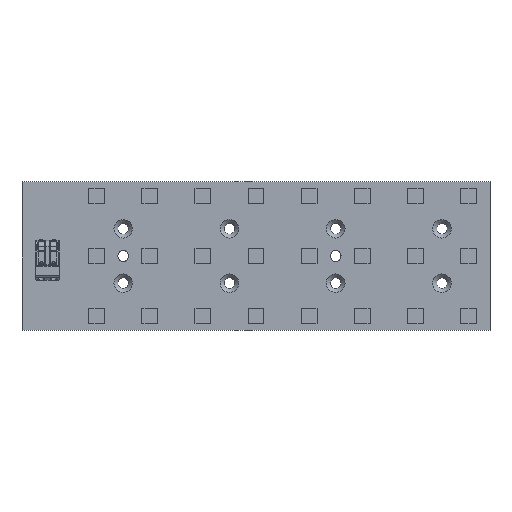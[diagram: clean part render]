
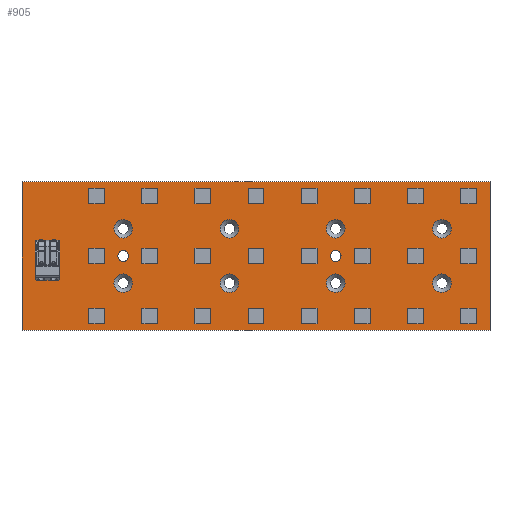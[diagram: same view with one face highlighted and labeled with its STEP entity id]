
A CAD part, top view. The second image highlights one B-rep face of the part: STEP entity #905.
In plain terms, the highlighted planar face has unit normal (0, 0, 1).
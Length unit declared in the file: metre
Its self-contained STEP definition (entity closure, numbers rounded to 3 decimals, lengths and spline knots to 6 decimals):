
#905=ADVANCED_FACE('',(#1899,#1900,#1901,#1902,#1903,#1904,#1905,#1906,#1907,#1908,#1909),#1910,.T.);
#1899=FACE_BOUND('',#3176,.T.);
#1900=FACE_BOUND('',#3177,.T.);
#1901=FACE_BOUND('',#3178,.T.);
#1902=FACE_BOUND('',#3179,.T.);
#1903=FACE_BOUND('',#3180,.T.);
#1904=FACE_BOUND('',#3181,.T.);
#1905=FACE_BOUND('',#3182,.T.);
#1906=FACE_BOUND('',#3183,.T.);
#1907=FACE_OUTER_BOUND('',#3184,.T.);
#1908=FACE_BOUND('',#3185,.T.);
#1909=FACE_BOUND('',#3186,.T.);
#1910=PLANE('',#3187);
#3176=EDGE_LOOP('',(#5153));
#3177=EDGE_LOOP('',(#5154));
#3178=EDGE_LOOP('',(#5155));
#3179=EDGE_LOOP('',(#5156));
#3180=EDGE_LOOP('',(#5157));
#3181=EDGE_LOOP('',(#5158));
#3182=EDGE_LOOP('',(#5159));
#3183=EDGE_LOOP('',(#5160));
#3184=EDGE_LOOP('',(#5161,#5162,#5163,#5164));
#3185=EDGE_LOOP('',(#5165));
#3186=EDGE_LOOP('',(#5166));
#3187=AXIS2_PLACEMENT_3D('',#5167,#5168,#5169);
#5153=ORIENTED_EDGE('',*,*,#8152,.T.);
#5154=ORIENTED_EDGE('',*,*,#8155,.T.);
#5155=ORIENTED_EDGE('',*,*,#8179,.T.);
#5156=ORIENTED_EDGE('',*,*,#8180,.T.);
#5157=ORIENTED_EDGE('',*,*,#8181,.T.);
#5158=ORIENTED_EDGE('',*,*,#8182,.T.);
#5159=ORIENTED_EDGE('',*,*,#8183,.T.);
#5160=ORIENTED_EDGE('',*,*,#8184,.T.);
#5161=ORIENTED_EDGE('',*,*,#8185,.F.);
#5162=ORIENTED_EDGE('',*,*,#8157,.F.);
#5163=ORIENTED_EDGE('',*,*,#8164,.F.);
#5164=ORIENTED_EDGE('',*,*,#8186,.F.);
#5165=ORIENTED_EDGE('',*,*,#8187,.T.);
#5166=ORIENTED_EDGE('',*,*,#8188,.T.);
#5167=CARTESIAN_POINT('',(0.0,0.0,0.0));
#5168=DIRECTION('',(0.0,0.0,1.0));
#5169=DIRECTION('',(1.0,0.0,-0.0));
#8152=EDGE_CURVE('',#9579,#9579,#9580,.F.);
#8155=EDGE_CURVE('',#9584,#9584,#9585,.F.);
#8157=EDGE_CURVE('',#9587,#9588,#9589,.T.);
#8164=EDGE_CURVE('',#9598,#9587,#9600,.T.);
#8179=EDGE_CURVE('',#9626,#9626,#9627,.F.);
#8180=EDGE_CURVE('',#9628,#9628,#9629,.F.);
#8181=EDGE_CURVE('',#9630,#9630,#9631,.F.);
#8182=EDGE_CURVE('',#9632,#9632,#9633,.F.);
#8183=EDGE_CURVE('',#9634,#9634,#9635,.F.);
#8184=EDGE_CURVE('',#9636,#9636,#9637,.F.);
#8185=EDGE_CURVE('',#9588,#9638,#9639,.T.);
#8186=EDGE_CURVE('',#9638,#9598,#9640,.T.);
#8187=EDGE_CURVE('',#9641,#9641,#9642,.T.);
#8188=EDGE_CURVE('',#9643,#9643,#9644,.T.);
#9579=VERTEX_POINT('',#11691);
#9580=CIRCLE('',#11692,0.00295);
#9584=VERTEX_POINT('',#11696);
#9585=CIRCLE('',#11697,0.00295);
#9587=VERTEX_POINT('',#11699);
#9588=VERTEX_POINT('',#11700);
#9589=LINE('',#11701,#11702);
#9598=VERTEX_POINT('',#11715);
#9600=LINE('',#11718,#11719);
#9626=VERTEX_POINT('',#11747);
#9627=CIRCLE('',#11748,0.00295);
#9628=VERTEX_POINT('',#11749);
#9629=CIRCLE('',#11750,0.00295);
#9630=VERTEX_POINT('',#11751);
#9631=CIRCLE('',#11752,0.00295);
#9632=VERTEX_POINT('',#11753);
#9633=CIRCLE('',#11754,0.00295);
#9634=VERTEX_POINT('',#11755);
#9635=CIRCLE('',#11756,0.00295);
#9636=VERTEX_POINT('',#11757);
#9637=CIRCLE('',#11758,0.00295);
#9638=VERTEX_POINT('',#11759);
#9639=LINE('',#11760,#11761);
#9640=LINE('',#11762,#11763);
#9641=VERTEX_POINT('',#11764);
#9642=CIRCLE('',#11765,0.0017);
#9643=VERTEX_POINT('',#11766);
#9644=CIRCLE('',#11767,0.0017);
#11691=CARTESIAN_POINT('',(0.06175,-0.0086,0.0));
#11692=AXIS2_PLACEMENT_3D('',#14767,#14768,#14769);
#11696=CARTESIAN_POINT('',(0.06175,0.0086,0.0));
#11697=AXIS2_PLACEMENT_3D('',#14773,#14774,#14775);
#11699=CARTESIAN_POINT('',(0.074,-0.0235,0.0));
#11700=CARTESIAN_POINT('',(-0.074,-0.0235,0.0));
#11701=CARTESIAN_POINT('',(0.0,-0.0235,0.0));
#11702=VECTOR('',#14776,1.0);
#11715=CARTESIAN_POINT('',(0.074,0.0235,0.0));
#11718=CARTESIAN_POINT('',(0.074,0.0,0.0));
#11719=VECTOR('',#14782,1.0);
#11747=CARTESIAN_POINT('',(0.02815,0.0086,0.0));
#11748=AXIS2_PLACEMENT_3D('',#14815,#14816,#14817);
#11749=CARTESIAN_POINT('',(0.02815,-0.0086,0.0));
#11750=AXIS2_PLACEMENT_3D('',#14818,#14819,#14820);
#11751=CARTESIAN_POINT('',(-0.00545,0.0086,0.0));
#11752=AXIS2_PLACEMENT_3D('',#14821,#14822,#14823);
#11753=CARTESIAN_POINT('',(-0.00545,-0.0086,0.0));
#11754=AXIS2_PLACEMENT_3D('',#14824,#14825,#14826);
#11755=CARTESIAN_POINT('',(-0.03905,-0.0086,0.0));
#11756=AXIS2_PLACEMENT_3D('',#14827,#14828,#14829);
#11757=CARTESIAN_POINT('',(-0.03905,0.0086,0.0));
#11758=AXIS2_PLACEMENT_3D('',#14830,#14831,#14832);
#11759=CARTESIAN_POINT('',(-0.074,0.0235,0.0));
#11760=CARTESIAN_POINT('',(-0.074,0.0,0.0));
#11761=VECTOR('',#14833,1.0);
#11762=CARTESIAN_POINT('',(0.0,0.0235,0.0));
#11763=VECTOR('',#14834,1.0);
#11764=CARTESIAN_POINT('',(0.0235,0.0,0.0));
#11765=AXIS2_PLACEMENT_3D('',#14835,#14836,#14837);
#11766=CARTESIAN_POINT('',(-0.0437,0.0,0.0));
#11767=AXIS2_PLACEMENT_3D('',#14838,#14839,#14840);
#14767=CARTESIAN_POINT('',(0.0588,-0.0086,0.0));
#14768=DIRECTION('',(0.0,0.0,1.0));
#14769=DIRECTION('',(1.0,0.0,-0.0));
#14773=CARTESIAN_POINT('',(0.0588,0.0086,0.0));
#14774=DIRECTION('',(0.0,0.0,1.0));
#14775=DIRECTION('',(1.0,0.0,-0.0));
#14776=DIRECTION('',(-1.0,-0.0,-0.0));
#14782=DIRECTION('',(0.0,-1.0,0.0));
#14815=CARTESIAN_POINT('',(0.0252,0.0086,0.0));
#14816=DIRECTION('',(0.0,0.0,1.0));
#14817=DIRECTION('',(1.0,0.0,-0.0));
#14818=CARTESIAN_POINT('',(0.0252,-0.0086,0.0));
#14819=DIRECTION('',(0.0,0.0,1.0));
#14820=DIRECTION('',(1.0,0.0,-0.0));
#14821=CARTESIAN_POINT('',(-0.0084,0.0086,0.0));
#14822=DIRECTION('',(0.0,0.0,1.0));
#14823=DIRECTION('',(1.0,0.0,-0.0));
#14824=CARTESIAN_POINT('',(-0.0084,-0.0086,0.0));
#14825=DIRECTION('',(0.0,0.0,1.0));
#14826=DIRECTION('',(1.0,0.0,-0.0));
#14827=CARTESIAN_POINT('',(-0.042,-0.0086,0.0));
#14828=DIRECTION('',(0.0,0.0,1.0));
#14829=DIRECTION('',(1.0,0.0,-0.0));
#14830=CARTESIAN_POINT('',(-0.042,0.0086,0.0));
#14831=DIRECTION('',(0.0,0.0,1.0));
#14832=DIRECTION('',(1.0,0.0,-0.0));
#14833=DIRECTION('',(-0.0,1.0,-0.0));
#14834=DIRECTION('',(1.0,0.0,0.0));
#14835=CARTESIAN_POINT('',(0.0252,0.0,0.0));
#14836=DIRECTION('',(-0.0,0.0,-1.0));
#14837=DIRECTION('',(-1.0,0.0,0.0));
#14838=CARTESIAN_POINT('',(-0.042,0.0,0.0));
#14839=DIRECTION('',(-0.0,0.0,-1.0));
#14840=DIRECTION('',(-1.0,0.0,0.0));
